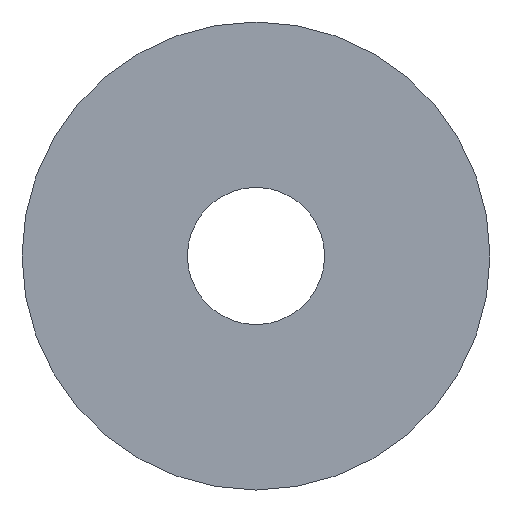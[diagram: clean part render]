
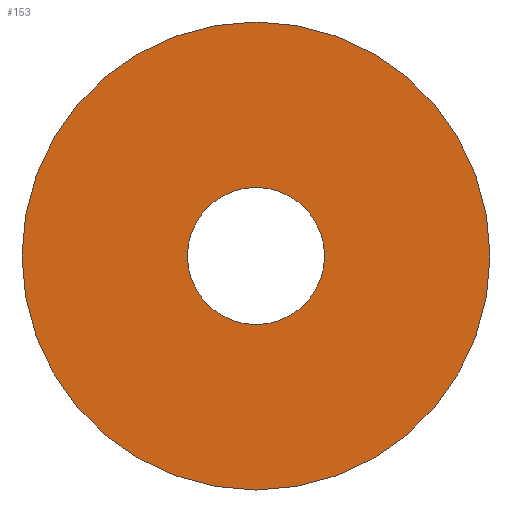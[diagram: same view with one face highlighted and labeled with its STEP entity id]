
A CAD part, left-side view. The second image highlights one B-rep face of the part: STEP entity #153.
In plain terms, the highlighted planar face has unit normal (-1, 0, 0).
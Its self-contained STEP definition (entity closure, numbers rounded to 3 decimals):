
#1 = ORIENTED_EDGE ( 'NONE', *, *, #65, .T. ) ;
#21 = ORIENTED_EDGE ( 'NONE', *, *, #140, .F. ) ;
#24 = DIRECTION ( 'NONE',  ( 1., 0., 0. ) ) ;
#26 = CARTESIAN_POINT ( 'NONE',  ( 111.125, 107.95, 0. ) ) ;
#29 = VERTEX_POINT ( 'NONE', #159 ) ;
#44 = EDGE_CURVE ( 'NONE', #158, #157, #123, .T. ) ;
#50 = EDGE_LOOP ( 'NONE', ( #56, #1 ) ) ;
#56 = ORIENTED_EDGE ( 'NONE', *, *, #57, .T. ) ;
#57 = EDGE_CURVE ( 'NONE', #72, #29, #133, .T. ) ;
#65 = EDGE_CURVE ( 'NONE', #29, #72, #137, .T. ) ;
#66 = EDGE_LOOP ( 'NONE', ( #21, #82 ) ) ;
#72 = VERTEX_POINT ( 'NONE', #352 ) ;
#78 = DIRECTION ( 'NONE',  ( 0., 0., -1. ) ) ;
#80 = DIRECTION ( 'NONE',  ( 1., 0., 0. ) ) ;
#82 = ORIENTED_EDGE ( 'NONE', *, *, #44, .F. ) ;
#90 = CARTESIAN_POINT ( 'NONE',  ( 111.125, 107.95, 0. ) ) ;
#105 = DIRECTION ( 'NONE',  ( 1., 0., 0. ) ) ;
#108 = CARTESIAN_POINT ( 'NONE',  ( 111.125, 107.95, 0. ) ) ;
#115 = DIRECTION ( 'NONE',  ( 0., 0., -1. ) ) ;
#117 = DIRECTION ( 'NONE',  ( 1., 0., 0. ) ) ;
#119 = CARTESIAN_POINT ( 'NONE',  ( 111.125, 107.95, 0. ) ) ;
#121 = DIRECTION ( 'NONE',  ( -1., 0., 0. ) ) ;
#123 = CIRCLE ( 'NONE', #364, 19.05 ) ;
#129 = PLANE ( 'NONE',  #313 ) ;
#133 = CIRCLE ( 'NONE', #332, 5.588 ) ;
#137 = CIRCLE ( 'NONE', #326, 5.588 ) ;
#140 = EDGE_CURVE ( 'NONE', #157, #158, #169, .T. ) ;
#145 = CARTESIAN_POINT ( 'NONE',  ( 111.125, 117.475, 0. ) ) ;
#150 = CARTESIAN_POINT ( 'NONE',  ( 111.125, 107.95, -19.05 ) ) ;
#153 = ADVANCED_FACE ( 'NONE', ( #174, #176 ), #129, .T. ) ;
#154 = DIRECTION ( 'NONE',  ( 0., 0., -1. ) ) ;
#157 = VERTEX_POINT ( 'NONE', #150 ) ;
#158 = VERTEX_POINT ( 'NONE', #181 ) ;
#159 = CARTESIAN_POINT ( 'NONE',  ( 111.125, 107.95, 5.588 ) ) ;
#169 = CIRCLE ( 'NONE', #379, 19.05 ) ;
#174 = FACE_BOUND ( 'NONE', #50, .T. ) ;
#176 = FACE_OUTER_BOUND ( 'NONE', #66, .T. ) ;
#179 = DIRECTION ( 'NONE',  ( 0., 0., 1. ) ) ;
#181 = CARTESIAN_POINT ( 'NONE',  ( 111.125, 107.95, 19.05 ) ) ;
#313 = AXIS2_PLACEMENT_3D ( 'NONE', #145, #121, #179 ) ;
#326 = AXIS2_PLACEMENT_3D ( 'NONE', #26, #24, #350 ) ;
#332 = AXIS2_PLACEMENT_3D ( 'NONE', #90, #80, #78 ) ;
#350 = DIRECTION ( 'NONE',  ( 0., 0., -1. ) ) ;
#352 = CARTESIAN_POINT ( 'NONE',  ( 111.125, 107.95, -5.588 ) ) ;
#364 = AXIS2_PLACEMENT_3D ( 'NONE', #119, #117, #115 ) ;
#379 = AXIS2_PLACEMENT_3D ( 'NONE', #108, #105, #154 ) ;
